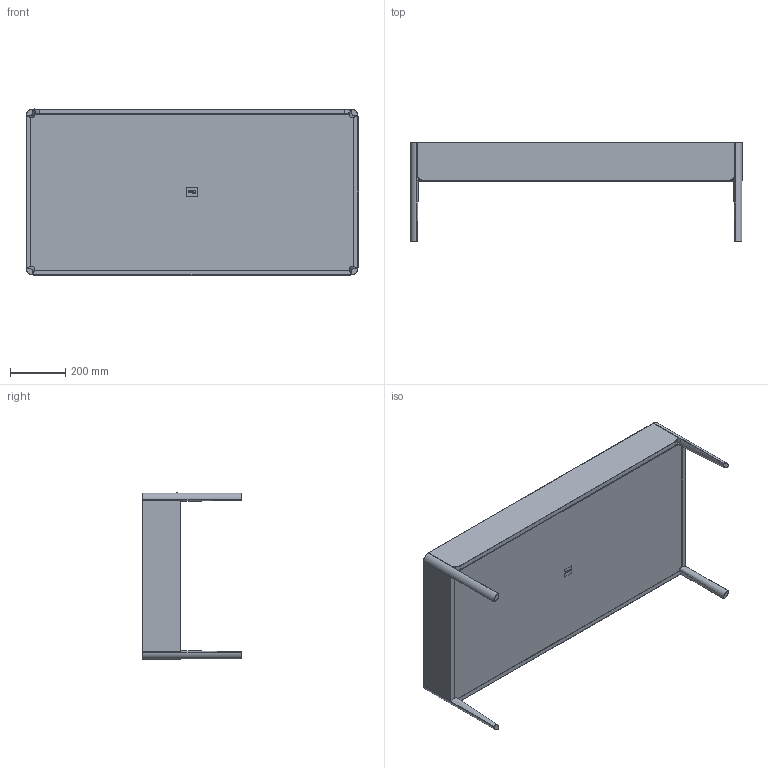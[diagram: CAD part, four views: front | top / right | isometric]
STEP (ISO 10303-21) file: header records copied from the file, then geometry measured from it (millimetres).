
FILE_DESCRIPTION (( 'STEP AP203' ), '1' );
FILE_NAME ('DIORAMA COFFEE TABLE.STEP', '2023-04-11T08:37:57', ( '' ), ( '' ), 'SwSTEP 2.0', 'SolidWorks 2023', '' );
FILE_SCHEMA (( 'CONFIG_CONTROL_DESIGN' ));
Length unit declared in the file: millimetre
Products named in the file (2): DIORAMA COFFEE TABLE; Group1^coffee table DIORAMA 120 x 60 x 36_defeature
Assembly tree (1 placements, depth 2):
  DIORAMA COFFEE TABLE
    Group1^coffee table DIORAMA 120 x 60 x 36_defeature
Bounding box: 1200 x 360 x 600 mm (x, y, z)
Volume: 25828688.4 mm3; surface area: 3824117.4 mm2
Topology: 2 solids, 2 shells, 246 faces, 617 edges, 380 vertices
Faces by surface type: plane 106, bspline 48, cone 42, cylinder 38, sphere 8, torus 4
Entity records: 10129 total; most frequent: CARTESIAN_POINT 4521, ORIENTED_EDGE 1234, DIRECTION 973, EDGE_CURVE 617, VERTEX_POINT 380, AXIS2_PLACEMENT_3D 342, LINE 289, VECTOR 289
